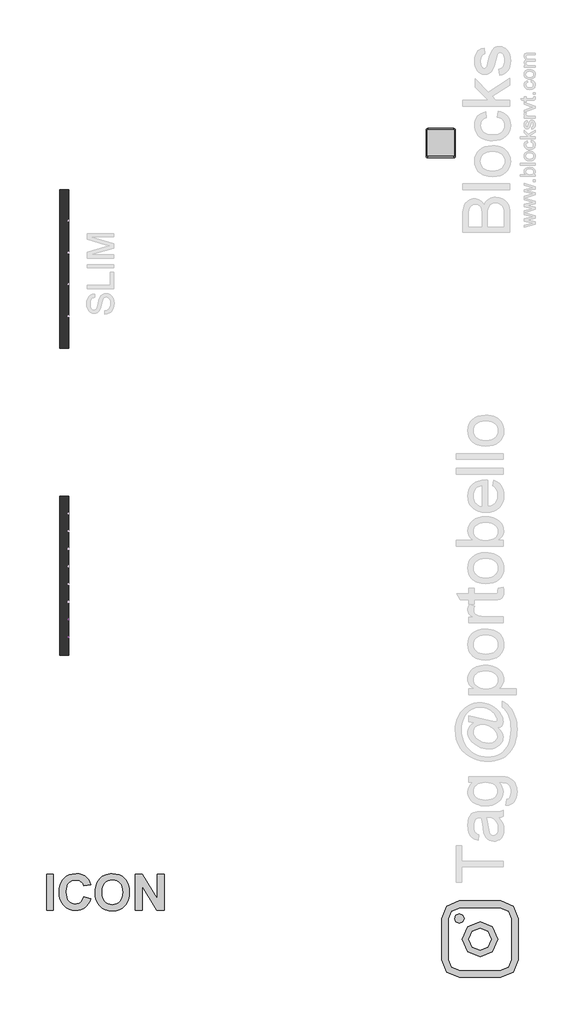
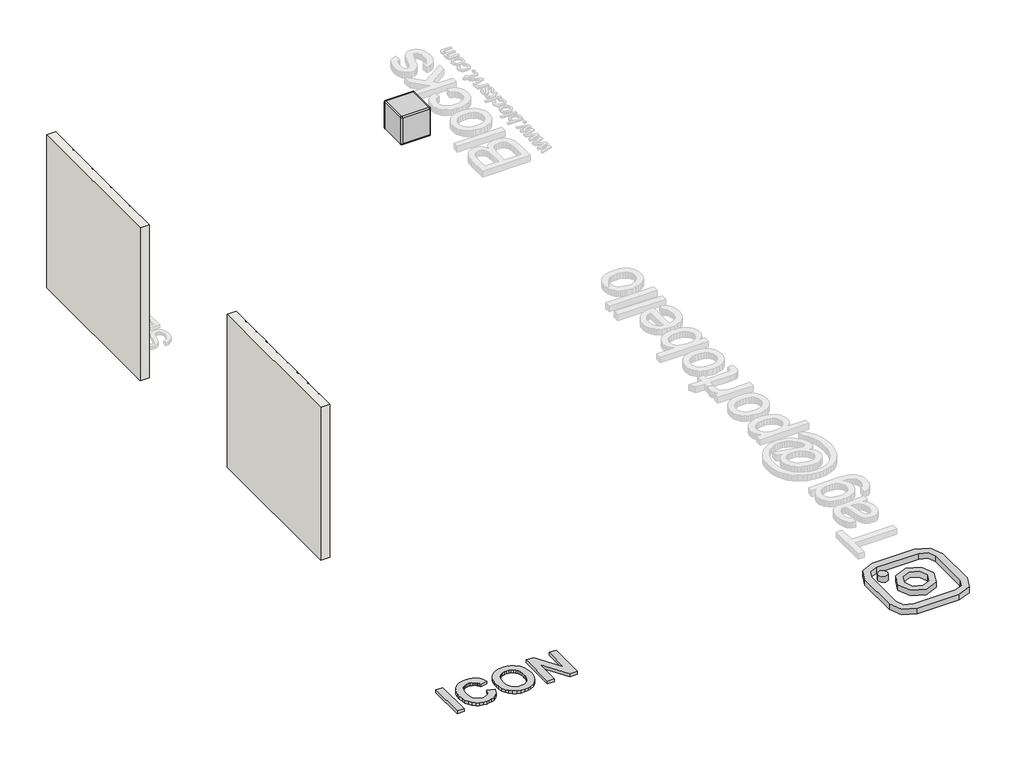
# One storey, part 1 of 4: 8 proxies, 2 walls, 1 furniture element.
"""IFC4 building model written with IfcOpenShell, lengths in millimetres."""

import ifcopenshell
import ifcopenshell.guid

model = None  # the IFC model being written
_history = None  # IfcOwnerHistory: only IFC2X3 demands one
_inside = {}  # id of a spatial element -> (the spatial element, [elements in it])
_under = {}  # id of a project, library or spatial element -> (it, [spatial elements below it])
_declared = {}  # id of a project -> (the project, [libraries it declares])
_typed = {}  # id of a type object -> (the type object, [elements of that type])
_made_of = {}  # id of a material, layer set ... -> (it, [elements and type objects made of it])


def new_model(schema):
    """Start an empty IFC model of exactly this schema.

    Asked for "IFC4X3", IfcOpenShell would pick the latest addendum, in which some entities
    have other attributes; the version numbers below select the first issue.
    IFC2X3 requires an IfcOwnerHistory on every rooted entity: one is made here for all.
    """
    global model, _history
    if schema == "IFC4X3":
        model = ifcopenshell.file(schema_version=(4, 3, 0, 0))
    else:
        model = ifcopenshell.file(schema=schema)
    _inside.clear()
    _under.clear()
    _declared.clear()
    _typed.clear()
    _made_of.clear()
    _history = None
    if model.schema == "IFC2X3":
        org = make("IfcOrganization", Name="unknown")
        user = make(
            "IfcPersonAndOrganization",
            ThePerson=make("IfcPerson", FamilyName="unknown"),
            TheOrganization=org,
        )
        app = make(
            "IfcApplication",
            ApplicationDeveloper=org,
            Version="unknown",
            ApplicationFullName="unknown",
            ApplicationIdentifier="unknown",
        )
        _history = make(
            "IfcOwnerHistory",
            OwningUser=user,
            OwningApplication=app,
            ChangeAction="ADDED",
            CreationDate=0,
        )
    return model


def make(cls, **values):
    """One entity of the class cls with the attributes given. An attribute that is None is left unset."""
    return model.create_entity(
        cls, **{name: value for name, value in values.items() if value is not None}
    )


def rooted(cls, **values):
    """An entity with a GlobalId (a new one), such as an element, a storey or a relation."""
    return make(cls, GlobalId=ifcopenshell.guid.new(), OwnerHistory=_history, **values)


def si_unit(unit_type, name, prefix=None):
    """IfcSIUnit, for example si_unit("LENGTHUNIT", "METRE", prefix="MILLI")."""
    return make("IfcSIUnit", UnitType=unit_type, Prefix=prefix, Name=name)


def assignment(units):
    """IfcUnitAssignment: the units of a project."""
    return None if units is None else make("IfcUnitAssignment", Units=units)


def point(xyz):
    """IfcCartesianPoint."""
    return None if xyz is None else make("IfcCartesianPoint", Coordinates=xyz)


def direction(xyz):
    """IfcDirection."""
    return None if xyz is None else make("IfcDirection", DirectionRatios=xyz)


def frame(location, z_axis=None, x_axis=None):
    """IfcAxis2Placement3D, a coordinate frame: its origin and axes. An axis left out is left unset."""
    return make(
        "IfcAxis2Placement3D",
        Location=point(location),
        Axis=direction(z_axis),
        RefDirection=direction(x_axis),
    )


def frame_2d(location, x_axis=None):
    """IfcAxis2Placement2D, a coordinate frame in the plane: its origin and x axis."""
    return make(
        "IfcAxis2Placement2D", Location=point(location), RefDirection=direction(x_axis)
    )


def origin():
    """The frame at (0, 0, 0) with its axes left unset."""
    return frame((0.0, 0.0, 0.0))


def origin_with_axes():
    """The frame at (0, 0, 0) with the z axis (0, 0, 1) and the x axis (1, 0, 0) written out."""
    return frame((0.0, 0.0, 0.0), z_axis=(0.0, 0.0, 1.0), x_axis=(1.0, 0.0, 0.0))


def origin_2d():
    """The frame at (0, 0) in the plane with its x axis left unset."""
    return frame_2d((0.0, 0.0))


def place(relative_to, where):
    """IfcLocalPlacement: puts the frame where relative to a parent placement (None: the world)."""
    return make(
        "IfcLocalPlacement", PlacementRelTo=relative_to, RelativePlacement=where
    )


def context(
    kind, dimensions, precision=None, world=None, true_north=None, identifier=None
):
    """IfcGeometricRepresentationContext, for example the 3D "Model" context."""
    return make(
        "IfcGeometricRepresentationContext",
        ContextIdentifier=identifier,
        ContextType=kind,
        CoordinateSpaceDimension=dimensions,
        Precision=precision,
        WorldCoordinateSystem=world,
        TrueNorth=true_north,
    )


def project(units=None, contexts=None):
    """IfcProject with its units and contexts."""
    return rooted(
        "IfcProject",
        Name="project",
        RepresentationContexts=contexts,
        UnitsInContext=assignment(units),
    )


def spatial(cls, under=None, at=None, **own):
    """A site, building, storey or space (cls), placed at a placement, below another one or the project."""
    s = rooted(cls, ObjectPlacement=at, **own)
    if under is not None:
        _under.setdefault(under.id(), (under, []))[1].append(s)
    return s


def polyline(points):
    """IfcPolyline through the points."""
    return make("IfcPolyline", Points=[point(p) for p in points])


def circle_curve(where, radius):
    """IfcCircle in the frame where."""
    return make("IfcCircle", Position=where, Radius=radius)


def ellipse_curve(where, semi_axis1, semi_axis2):
    """IfcEllipse in the frame where."""
    return make(
        "IfcEllipse", Position=where, SemiAxis1=semi_axis1, SemiAxis2=semi_axis2
    )


def trimmed(basis, trim1, trim2, sense, master):
    """IfcTrimmedCurve: the piece of a basis curve between two trims."""
    return make(
        "IfcTrimmedCurve",
        BasisCurve=basis,
        Trim1=trim1,
        Trim2=trim2,
        SenseAgreement=sense,
        MasterRepresentation=master,
    )


def segment(curve, same_sense, transition):
    """IfcCompositeCurveSegment."""
    return make(
        "IfcCompositeCurveSegment",
        Transition=transition,
        SameSense=same_sense,
        ParentCurve=curve,
    )


def composite_curve(segments, self_intersect=None):
    """IfcCompositeCurve: segments joined end to end."""
    return make("IfcCompositeCurve", Segments=segments, SelfIntersect=self_intersect)


def outline(outer, holes=None, kind="AREA"):
    """IfcArbitraryClosedProfileDef: a profile drawn as a closed curve; with holes, ...WithVoids."""
    if holes is None:
        return make("IfcArbitraryClosedProfileDef", ProfileType=kind, OuterCurve=outer)
    return make(
        "IfcArbitraryProfileDefWithVoids",
        ProfileType=kind,
        OuterCurve=outer,
        InnerCurves=holes,
    )


def extrude(swept, where, along, depth):
    """IfcExtrudedAreaSolid: the profile swept, set in the frame where, extruded along a direction by depth."""
    return make(
        "IfcExtrudedAreaSolid",
        SweptArea=swept,
        Position=where,
        ExtrudedDirection=direction(along),
        Depth=depth,
    )


def shape(context_of_items, identifier, shape_type, items):
    """IfcShapeRepresentation: the items that make up one representation, for example the "Body"."""
    return make(
        "IfcShapeRepresentation",
        ContextOfItems=context_of_items,
        RepresentationIdentifier=identifier,
        RepresentationType=shape_type,
        Items=items,
    )


def source(mapping_origin, context_of_items, identifier, shape_type, items):
    """IfcRepresentationMap: a shape defined once, which mapped items show again and again."""
    return make(
        "IfcRepresentationMap",
        MappingOrigin=mapping_origin,
        MappedRepresentation=shape(context_of_items, identifier, shape_type, items),
    )


def transform(
    local_origin,
    x_axis=None,
    y_axis=None,
    z_axis=None,
    scale=None,
    scale2=None,
    scale3=None,
    uniform=True,
):
    """IfcCartesianTransformationOperator3D, or its non-uniform kind. x_axis, y_axis, z_axis: its Axis1, 2, 3."""
    if uniform:
        return make(
            "IfcCartesianTransformationOperator3D",
            Axis1=direction(x_axis),
            Axis2=direction(y_axis),
            LocalOrigin=point(local_origin),
            Scale=scale,
            Axis3=direction(z_axis),
        )
    return make(
        "IfcCartesianTransformationOperator3DnonUniform",
        Axis1=direction(x_axis),
        Axis2=direction(y_axis),
        LocalOrigin=point(local_origin),
        Scale=scale,
        Axis3=direction(z_axis),
        Scale2=scale2,
        Scale3=scale3,
    )


def mapped(mapping_source, mapping_target):
    """IfcMappedItem: shows the shape of a source again, moved by a transform."""
    return make(
        "IfcMappedItem", MappingSource=mapping_source, MappingTarget=mapping_target
    )


def made_of(thing, what):
    """Note that an element or type object is made of a material, layer set ...; save() writes the relation."""
    if what is not None:
        _made_of.setdefault(what.id(), (what, []))[1].append(thing)
    return thing


def element(
    cls,
    number,
    at=None,
    inside=None,
    cuts=None,
    type_object=None,
    material=None,
    context=None,
    identifier="Body",
    shape_type=None,
    held_by="IfcProductDefinitionShape",
    body=None,
    shapes=None,
    **own,
):
    """One element of the class cls, such as IfcWall. Its Tag is "e" and its number.

    at: its placement. inside: the storey or other place that contains it. cuts: it is an
    opening in that element (IfcRelVoidsElement). A single representation is given by context,
    identifier, shape_type and body (its items); several are given by shapes. held_by: the class
    of the entity that holds the representations. save() writes the other relations.
    """
    e = rooted(cls, Tag="e%d" % number, ObjectPlacement=at, **own)
    if body is not None:
        shapes = [shape(context, identifier, shape_type, body)]
    if shapes is not None:
        e.Representation = make(held_by, Representations=shapes)
    if inside is not None:
        _inside.setdefault(inside.id(), (inside, []))[1].append(e)
    if cuts is not None:
        rooted(
            "IfcRelVoidsElement", RelatingBuildingElement=cuts, RelatedOpeningElement=e
        )
    if type_object is not None:
        _typed.setdefault(type_object.id(), (type_object, []))[1].append(e)
    return made_of(e, material)


def aggregate(whole, parts):
    """IfcRelAggregates: a whole, such as a stair, and the parts it consists of."""
    return rooted("IfcRelAggregates", RelatingObject=whole, RelatedObjects=parts)


def save(model, path):
    """Write the relations noted so far, then the file.

    IfcRelAggregates (storeys below a building ...), IfcRelContainedInSpatialStructure (elements
    in a storey), IfcRelDefinesByType, IfcRelAssociatesMaterial and IfcRelDeclares: one each for
    every whole, place, type object, material and project.
    """
    for whole, parts in _under.values():
        aggregate(whole, parts)
    for where, things in _inside.values():
        rooted(
            "IfcRelContainedInSpatialStructure",
            RelatedElements=things,
            RelatingStructure=where,
        )
    for kind, things in _typed.values():
        rooted("IfcRelDefinesByType", RelatedObjects=things, RelatingType=kind)
    for what, things in _made_of.values():
        rooted("IfcRelAssociatesMaterial", RelatedObjects=things, RelatingMaterial=what)
    for by, libraries in _declared.values():
        rooted("IfcRelDeclares", RelatingContext=by, RelatedDefinitions=libraries)
    model.write(path)


def plane_surface(at):
    """IfcPlane: the flat surface through the origin of the frame at, square to its z axis."""
    return make("IfcPlane", Position=at)


def cylinder_surface(at, radius):
    """IfcCylindricalSurface: all points at the distance radius from the z axis of the frame at."""
    return make("IfcCylindricalSurface", Position=at, Radius=radius)


def revolved_surface(curve, axis_point, axis_direction):
    """IfcSurfaceOfRevolution: the curve turned about the line through axis_point along axis_direction."""
    return make(
        "IfcSurfaceOfRevolution",
        SweptCurve=make("IfcArbitraryOpenProfileDef", ProfileType="CURVE", Curve=curve),
        AxisPosition=make("IfcAxis1Placement", Location=point(axis_point), Axis=direction(axis_direction)),
    )


def advanced_brep(points, edges, surfaces, faces):
    """IfcAdvancedBrep: a solid bounded by faces that lie on surfaces and meet in shared edges.

    An edge is (start, end): straight between two places in points (the first is 0);
    or (start, end, curve); or (start, end, curve, False) where it runs against its curve.
    A face is (place in surfaces, loops), or (place, loops, False) where it looks against
    its surface's normal. A loop lists edges by number (the first is 1), with a minus sign
    where the edge is run from its end to its start. The first loop is the outer one.
    """
    corners = [point(p) for p in points]
    vertices = [make("IfcVertexPoint", VertexGeometry=c) for c in corners]
    made = []
    for start, end, *more in edges:
        made.append(
            make(
                "IfcEdgeCurve",
                EdgeStart=vertices[start],
                EdgeEnd=vertices[end],
                EdgeGeometry=more[0] if more else make("IfcPolyline", Points=[corners[start], corners[end]]),
                SameSense=more[1] if len(more) > 1 else True,
            )
        )
    hull = []
    for where, loops, *sense in faces:
        bounds = []
        for j, loop in enumerate(loops):
            ring = [make("IfcOrientedEdge", EdgeElement=made[abs(k) - 1], Orientation=k > 0) for k in loop]
            bounds.append(
                make(
                    "IfcFaceOuterBound" if j == 0 else "IfcFaceBound",
                    Bound=make("IfcEdgeLoop", EdgeList=ring),
                    Orientation=True,
                )
            )
        hull.append(make("IfcAdvancedFace", Bounds=bounds, FaceSurface=surfaces[where], SameSense=sense[0] if sense else True))
    return make("IfcAdvancedBrep", Outer=make("IfcClosedShell", CfsFaces=hull))


def generic_models_d67f6705(model_context):
    return source(origin(), model_context, "Body", "SweptSolid", [
        extrude(outline(composite_curve([segment(polyline([(650.0, 350.0), (650.0, -350.0)]), True, "CONTINUOUS"), segment(trimmed(circle_curve(frame_2d((350.0, -350.0)), 300.0), [point((650.0, -350.0))], [point((350.0, -650.0))], False, "CARTESIAN"), True, "CONTINUOUS"), segment(polyline([(350.0, -650.0), (-350.0, -650.0)]), True, "CONTINUOUS"), segment(trimmed(circle_curve(frame_2d((-350.0, -350.0)), 300.0), [point((-350.0, -650.0))], [point((-650.0, -350.0))], False, "CARTESIAN"), True, "CONTINUOUS"), segment(polyline([(-650.0, -350.0), (-650.0, 350.0)]), True, "CONTINUOUS"), segment(trimmed(circle_curve(frame_2d((-350.0, 350.0)), 300.0), [point((-650.0, 350.0))], [point((-350.0, 650.0))], False, "CARTESIAN"), True, "CONTINUOUS"), segment(polyline([(-350.0, 650.0), (350.0, 650.0)]), True, "CONTINUOUS"), segment(trimmed(circle_curve(frame_2d((350.0, 350.0)), 300.0), [point((350.0, 650.0))], [point((650.0, 350.0))], False, "CARTESIAN"), True, "CONTINUOUS")], self_intersect=False), holes=[composite_curve([segment(trimmed(circle_curve(frame_2d((-350.0, -350.0)), 180.0), [point((-530.0, -350.0))], [point((-350.0, -530.0))], True, "CARTESIAN"), True, "CONTINUOUS"), segment(polyline([(-350.0, -530.0), (350.0, -530.0)]), True, "CONTINUOUS"), segment(trimmed(circle_curve(frame_2d((350.0, -350.0)), 180.0), [point((350.0, -530.0))], [point((530.0, -350.0))], True, "CARTESIAN"), True, "CONTINUOUS"), segment(polyline([(530.0, -350.0), (530.0, 350.0)]), True, "CONTINUOUS"), segment(trimmed(circle_curve(frame_2d((350.0, 350.0)), 180.0), [point((530.0, 350.0))], [point((350.0, 530.0))], True, "CARTESIAN"), True, "CONTINUOUS"), segment(polyline([(350.0, 530.0), (-350.0, 530.0)]), True, "CONTINUOUS"), segment(trimmed(circle_curve(frame_2d((-350.0, 350.0)), 180.0), [point((-350.0, 530.0))], [point((-530.0, 350.0))], True, "CARTESIAN"), True, "CONTINUOUS"), segment(polyline([(-530.0, 350.0), (-530.0, -350.0)]), True, "CONTINUOUS")], self_intersect=False)]), origin_with_axes(), (0.0, 0.0, 1.0), 100.0),
        extrude(outline(composite_curve([segment(trimmed(circle_curve(origin_2d(), 300.0), [point((-300.0, 0.0))], [point((300.0, 0.0))], False, "CARTESIAN"), True, "CONTINUOUS"), segment(trimmed(circle_curve(origin_2d(), 300.0), [point((300.0, 0.0))], [point((-300.0, 0.0))], False, "CARTESIAN"), True, "CONTINUOUS")], self_intersect=False), holes=[composite_curve([segment(trimmed(circle_curve(origin_2d(), 190.0), [point((-190.0, 0.0))], [point((190.0, 0.0))], True, "CARTESIAN"), True, "CONTINUOUS"), segment(trimmed(circle_curve(origin_2d(), 190.0), [point((190.0, 0.0))], [point((-190.0, 0.0))], True, "CARTESIAN"), True, "CONTINUOUS")], self_intersect=False)]), origin_with_axes(), (0.0, 0.0, 1.0), 100.0),
        extrude(outline(composite_curve([segment(trimmed(circle_curve(frame_2d((351.5200499, -350.3863581)), 80.0), [point((271.5200499, -350.3863581))], [point((431.5200499, -350.3863581))], False, "CARTESIAN"), True, "CONTINUOUS"), segment(trimmed(circle_curve(frame_2d((351.5200499, -350.3863581)), 80.0), [point((431.5200499, -350.3863581))], [point((271.5200499, -350.3863581))], False, "CARTESIAN"), True, "CONTINUOUS")], self_intersect=False)), origin_with_axes(), (0.0, 0.0, 1.0), 100.0),
    ])


def black_7f78d727(model_context):
    return source(origin(), model_context, "Body", "SweptSolid", [
        extrude(outline(polyline([(1.0, -5.0), (-9.0, -5.0), (-9.0, -2.7289948), (-7.7920635, -2.7289948), (-6.5210583, -4.0), (0.0, -4.0), (0.0, 4.0), (-9.0, 4.0), (-9.0, 23.9106111), (-8.0, 23.9106111), (-8.0, 5.0), (1.0, 5.0), (1.0, -5.0)])), frame((0.0, -600.0, 0.0), z_axis=(0.0, 1.0, 0.0), x_axis=(0.0, 0.0, 1.0)), (0.0, 0.0, 1.0), 1200.0),
    ])


def black_fe5eff52(model_context):
    return source(origin(), model_context, "Body", "SweptSolid", [
        extrude(outline(polyline([(1.0, -5.0), (-9.0, -5.0), (-9.0, -2.7289948), (-7.7920635, -2.7289948), (-6.5210583, -4.0), (0.0, -4.0), (0.0, 4.0), (-9.0, 4.0), (-9.0, 23.9106111), (-8.0, 23.9106111), (-8.0, 5.0), (1.0, 5.0), (1.0, -5.0)])), frame((0.0, -600.0, 0.0), z_axis=(0.0, 1.0, 0.0), x_axis=(0.0, 0.0, 1.0)), (0.0, 0.0, 1.0), 300.0),
    ])


def branco_22256ad2(model_context):
    return source(origin(), model_context, "Body", "AdvancedBrep", [
        advanced_brep(
        [(-225.0, 226.0, 500.0), (-226.0, 225.0, 500.0), (-226.0, -225.0, 500.0), (-225.0, -226.0, 500.0), (225.0, -226.0, 500.0), (226.0, -225.0, 500.0), (226.0, 225.0, 500.0), (225.0, 226.0, 500.0), (-226.0, 225.0, 0.0), (-225.0, 226.0, 0.0), (225.0, 226.0, 0.0), (226.0, 225.0, 0.0), (226.0, -225.0, 0.0), (225.0, -226.0, 0.0), (-225.0, -226.0, 0.0), (-226.0, -225.0, 0.0), (-225.0, -250.0, 476.0), (-225.0, -250.0, 24.0), (225.0, -250.0, 24.0), (225.0, -250.0, 476.0), (250.0, -225.0, 476.0), (250.0, -225.0, 24.0), (250.0, 225.0, 24.0), (250.0, 225.0, 476.0), (225.0, 250.0, 476.0), (225.0, 250.0, 24.0), (-225.0, 250.0, 24.0), (-225.0, 250.0, 476.0), (-250.0, 225.0, 476.0), (-250.0, 225.0, 24.0), (-250.0, -225.0, 24.0), (-250.0, -225.0, 476.0)],
        [
            (0, 1, circle_curve(frame((-225.0, 225.0, 500.0), z_axis=(0.0, 0.0, 1.0), x_axis=(0.0, 1.0, 0.0)), 1.0)),
            (1, 2),
            (2, 3, circle_curve(frame((-225.0, -225.0, 500.0), z_axis=(0.0, 0.0, 1.0), x_axis=(-1.0, 0.0, 0.0)), 1.0)),
            (3, 4),
            (4, 5, circle_curve(frame((225.0, -225.0, 500.0), z_axis=(0.0, 0.0, 1.0), x_axis=(0.0, -1.0, 0.0)), 1.0)),
            (5, 6),
            (6, 7, circle_curve(frame((225.0, 225.0, 500.0), z_axis=(0.0, 0.0, 1.0), x_axis=(1.0, 0.0, 0.0)), 1.0)),
            (7, 0),
            (8, 9, circle_curve(frame((-225.0, 225.0, 0.0), z_axis=(0.0, 0.0, -1.0), x_axis=(0.0, 1.0, 0.0)), 1.0)),
            (9, 10),
            (10, 11, circle_curve(frame((225.0, 225.0, 0.0), z_axis=(0.0, 0.0, -1.0), x_axis=(1.0, 0.0, 0.0)), 1.0)),
            (11, 12),
            (12, 13, circle_curve(frame((225.0, -225.0, 0.0), z_axis=(0.0, 0.0, -1.0), x_axis=(0.0, -1.0, 0.0)), 1.0)),
            (13, 14),
            (14, 15, circle_curve(frame((-225.0, -225.0, 0.0), z_axis=(0.0, 0.0, -1.0), x_axis=(-1.0, 0.0, 0.0)), 1.0)),
            (15, 8),
            (16, 17),
            (17, 18),
            (18, 19),
            (19, 16),
            (20, 21),
            (21, 22),
            (22, 23),
            (23, 20),
            (24, 25),
            (25, 26),
            (26, 27),
            (27, 24),
            (28, 29),
            (29, 30),
            (30, 31),
            (31, 28),
            (16, 31, circle_curve(frame((-225.0, -225.0, 476.0), z_axis=(0.0, 0.0, -1.0), x_axis=(1.0, 0.0, 0.0)), 25.0)),
            (30, 17, circle_curve(frame((-225.0, -225.0, 24.0), z_axis=(0.0, 0.0, 1.0), x_axis=(1.0, 0.0, 0.0)), 25.0)),
            (20, 19, circle_curve(frame((225.0, -225.0, 476.0), z_axis=(0.0, 0.0, -1.0), x_axis=(1.0, 0.0, 0.0)), 25.0)),
            (18, 21, circle_curve(frame((225.0, -225.0, 24.0), z_axis=(0.0, 0.0, 1.0), x_axis=(1.0, 0.0, 0.0)), 25.0)),
            (24, 23, circle_curve(frame((225.0, 225.0, 476.0), z_axis=(0.0, 0.0, -1.0), x_axis=(1.0, 0.0, 0.0)), 25.0)),
            (22, 25, circle_curve(frame((225.0, 225.0, 24.0), z_axis=(0.0, 0.0, 1.0), x_axis=(1.0, 0.0, 0.0)), 25.0)),
            (28, 27, circle_curve(frame((-225.0, 225.0, 476.0), z_axis=(0.0, 0.0, -1.0), x_axis=(1.0, 0.0, 0.0)), 25.0)),
            (26, 29, circle_curve(frame((-225.0, 225.0, 24.0), z_axis=(0.0, 0.0, 1.0), x_axis=(1.0, 0.0, 0.0)), 25.0)),
            (28, 1, circle_curve(frame((-226.0, 225.0, 476.0), z_axis=(0.0, 1.0, 0.0), x_axis=(1.0, 0.0, 0.0)), 24.0)),
            (0, 27, circle_curve(frame((-225.0, 226.0, 476.0), z_axis=(-1.0, 0.0, 0.0), x_axis=(0.0, -1.0, 0.0)), 24.0)),
            (8, 29, circle_curve(frame((-226.0, 225.0, 24.0), z_axis=(0.0, 1.0, 0.0), x_axis=(1.0, 0.0, 0.0)), 24.0)),
            (26, 9, circle_curve(frame((-225.0, 226.0, 24.0), z_axis=(-1.0, 0.0, 0.0), x_axis=(0.0, -1.0, 0.0)), 24.0)),
            (31, 2, circle_curve(frame((-226.0, -225.0, 476.0), z_axis=(0.0, 1.0, 0.0), x_axis=(1.0, 0.0, 0.0)), 24.0)),
            (15, 30, circle_curve(frame((-226.0, -225.0, 24.0), z_axis=(0.0, 1.0, 0.0), x_axis=(1.0, 0.0, 0.0)), 24.0)),
            (16, 3, circle_curve(frame((-225.0, -226.0, 476.0), z_axis=(-1.0, 0.0, 0.0), x_axis=(0.0, 1.0, 0.0)), 24.0)),
            (14, 17, circle_curve(frame((-225.0, -226.0, 24.0), z_axis=(-1.0, 0.0, 0.0), x_axis=(0.0, 1.0, 0.0)), 24.0)),
            (19, 4, circle_curve(frame((225.0, -226.0, 476.0), z_axis=(-1.0, 0.0, 0.0), x_axis=(0.0, 1.0, 0.0)), 24.0)),
            (13, 18, circle_curve(frame((225.0, -226.0, 24.0), z_axis=(-1.0, 0.0, 0.0), x_axis=(0.0, 1.0, 0.0)), 24.0)),
            (20, 5, circle_curve(frame((226.0, -225.0, 476.0), z_axis=(0.0, -1.0, 0.0), x_axis=(-1.0, 0.0, 0.0)), 24.0)),
            (12, 21, circle_curve(frame((226.0, -225.0, 24.0), z_axis=(0.0, -1.0, 0.0), x_axis=(-1.0, 0.0, 0.0)), 24.0)),
            (23, 6, circle_curve(frame((226.0, 225.0, 476.0), z_axis=(0.0, -1.0, 0.0), x_axis=(-1.0, 0.0, 0.0)), 24.0)),
            (11, 22, circle_curve(frame((226.0, 225.0, 24.0), z_axis=(0.0, -1.0, 0.0), x_axis=(-1.0, 0.0, 0.0)), 24.0)),
            (24, 7, circle_curve(frame((225.0, 226.0, 476.0), z_axis=(1.0, 0.0, 0.0), x_axis=(0.0, -1.0, 0.0)), 24.0)),
            (10, 25, circle_curve(frame((225.0, 226.0, 24.0), z_axis=(1.0, 0.0, 0.0), x_axis=(0.0, -1.0, 0.0)), 24.0)),
        ],
        [
            plane_surface(frame((-200.0, -225.0, 500.0), z_axis=(0.0, 0.0, 1.0), x_axis=(0.0, 1.0, 0.0))),
            plane_surface(frame((-200.0, -225.0, 0.0), z_axis=(0.0, 0.0, -1.0), x_axis=(0.0, -1.0, 0.0))),
            plane_surface(frame((-225.0, -250.0, 500.0), z_axis=(0.0, -1.0, 0.0), x_axis=(0.0, 0.0, -1.0))),
            plane_surface(frame((250.0, -225.0, 500.0), z_axis=(1.0, 0.0, 0.0), x_axis=(0.0, 0.0, -1.0))),
            plane_surface(frame((225.0, 250.0, 500.0), z_axis=(0.0, 1.0, 0.0), x_axis=(0.0, 0.0, -1.0))),
            plane_surface(frame((-250.0, 225.0, 500.0), z_axis=(-1.0, 0.0, 0.0), x_axis=(0.0, 0.0, -1.0))),
            cylinder_surface(frame((-225.0, -225.0, 0.0), z_axis=(0.0, 0.0, 1.0), x_axis=(1.0, 0.0, 0.0)), 25.0),
            cylinder_surface(frame((225.0, -225.0, 0.0), z_axis=(0.0, 0.0, 1.0), x_axis=(1.0, 0.0, 0.0)), 25.0),
            cylinder_surface(frame((225.0, 225.0, 0.0), z_axis=(0.0, 0.0, 1.0), x_axis=(1.0, 0.0, 0.0)), 25.0),
            cylinder_surface(frame((-225.0, 225.0, 0.0), z_axis=(0.0, 0.0, 1.0), x_axis=(1.0, 0.0, 0.0)), 25.0),
            revolved_surface(trimmed(ellipse_curve(frame((-225.0, 226.0, 476.0), z_axis=(1.0, 0.0, 0.0), x_axis=(0.0, -1.0, 0.0)), 24.0, 24.0), [point((-225.0, 250.0, 476.0))], [point((-225.0, 226.0, 500.0))], True, "CARTESIAN"), (-225.0, 225.0, 500.0), (0.0, 0.0, 1.0)),
            revolved_surface(trimmed(ellipse_curve(frame((-225.0, 226.0, 24.0), z_axis=(1.0, 0.0, 0.0), x_axis=(0.0, -1.0, 0.0)), 24.0, 24.0), [point((-225.0, 226.0, 0.0))], [point((-225.0, 250.0, 24.0))], True, "CARTESIAN"), (-225.0, 225.0, 500.0), (0.0, 0.0, 1.0)),
            cylinder_surface(frame((-226.0, 225.0, 476.0), z_axis=(0.0, -1.0, 0.0), x_axis=(1.0, 0.0, 0.0)), 24.0),
            cylinder_surface(frame((-226.0, 225.0, 24.0), z_axis=(0.0, -1.0, 0.0), x_axis=(1.0, 0.0, 0.0)), 24.0),
            revolved_surface(trimmed(ellipse_curve(frame((-226.0, -225.0, 476.0), z_axis=(0.0, 1.0, 0.0), x_axis=(1.0, 0.0, 0.0)), 24.0, 24.0), [point((-250.0, -225.0, 476.0))], [point((-226.0, -225.0, 500.0))], True, "CARTESIAN"), (-225.0, -225.0, 500.0), (0.0, 0.0, 1.0)),
            revolved_surface(trimmed(ellipse_curve(frame((-226.0, -225.0, 24.0), z_axis=(0.0, 1.0, 0.0), x_axis=(1.0, 0.0, 0.0)), 24.0, 24.0), [point((-226.0, -225.0, 0.0))], [point((-250.0, -225.0, 24.0))], True, "CARTESIAN"), (-225.0, -225.0, 500.0), (0.0, 0.0, 1.0)),
            cylinder_surface(frame((-225.0, -226.0, 476.0), z_axis=(1.0, 0.0, 0.0), x_axis=(0.0, 1.0, 0.0)), 24.0),
            cylinder_surface(frame((-225.0, -226.0, 24.0), z_axis=(1.0, 0.0, 0.0), x_axis=(0.0, 1.0, 0.0)), 24.0),
            revolved_surface(trimmed(ellipse_curve(frame((225.0, -226.0, 476.0), z_axis=(-1.0, 0.0, 0.0), x_axis=(0.0, 1.0, 0.0)), 24.0, 24.0), [point((225.0, -250.0, 476.0))], [point((225.0, -226.0, 500.0))], True, "CARTESIAN"), (225.0, -225.0, 500.0), (0.0, 0.0, 1.0)),
            revolved_surface(trimmed(ellipse_curve(frame((225.0, -226.0, 24.0), z_axis=(-1.0, 0.0, 0.0), x_axis=(0.0, 1.0, 0.0)), 24.0, 24.0), [point((225.0, -226.0, 0.0))], [point((225.0, -250.0, 24.0))], True, "CARTESIAN"), (225.0, -225.0, 500.0), (0.0, 0.0, 1.0)),
            cylinder_surface(frame((226.0, -225.0, 476.0), z_axis=(0.0, 1.0, 0.0), x_axis=(-1.0, 0.0, 0.0)), 24.0),
            cylinder_surface(frame((226.0, -225.0, 24.0), z_axis=(0.0, 1.0, 0.0), x_axis=(-1.0, 0.0, 0.0)), 24.0),
            revolved_surface(trimmed(ellipse_curve(frame((226.0, 225.0, 476.0), z_axis=(0.0, -1.0, 0.0), x_axis=(-1.0, 0.0, 0.0)), 24.0, 24.0), [point((250.0, 225.0, 476.0))], [point((226.0, 225.0, 500.0))], True, "CARTESIAN"), (225.0, 225.0, 500.0), (0.0, 0.0, 1.0)),
            revolved_surface(trimmed(ellipse_curve(frame((226.0, 225.0, 24.0), z_axis=(0.0, -1.0, 0.0), x_axis=(-1.0, 0.0, 0.0)), 24.0, 24.0), [point((226.0, 225.0, 0.0))], [point((250.0, 225.0, 24.0))], True, "CARTESIAN"), (225.0, 225.0, 500.0), (0.0, 0.0, 1.0)),
            cylinder_surface(frame((225.0, 226.0, 476.0), z_axis=(-1.0, 0.0, 0.0), x_axis=(0.0, -1.0, 0.0)), 24.0),
            cylinder_surface(frame((225.0, 226.0, 24.0), z_axis=(-1.0, 0.0, 0.0), x_axis=(0.0, -1.0, 0.0)), 24.0),
        ],
        [
            (0, [[1, 2, 3, 4, 5, 6, 7, 8]]),
            (1, [[9, 10, 11, 12, 13, 14, 15, 16]]),
            (2, [[17, 18, 19, 20]]),
            (3, [[21, 22, 23, 24]]),
            (4, [[25, 26, 27, 28]]),
            (5, [[29, 30, 31, 32]]),
            (6, [[-17, 33, -31, 34]]),
            (7, [[-21, 35, -19, 36]]),
            (8, [[-25, 37, -23, 38]]),
            (9, [[-29, 39, -27, 40]]),
            (10, [[41, -1, 42, -39]]),
            (11, [[43, -40, 44, -9]]),
            (12, [[-41, -32, 45, -2]]),
            (13, [[-43, -16, 46, -30]]),
            (14, [[-45, -33, 47, -3]]),
            (15, [[-46, -15, 48, -34]]),
            (16, [[-47, -20, 49, -4]]),
            (17, [[-48, -14, 50, -18]]),
            (18, [[-49, -35, 51, -5]]),
            (19, [[-50, -13, 52, -36]]),
            (20, [[-51, -24, 53, -6]]),
            (21, [[-52, -12, 54, -22]]),
            (22, [[-53, -37, 55, -7]]),
            (23, [[-54, -11, 56, -38]]),
            (24, [[-42, -8, -55, -28]]),
            (25, [[-44, -26, -56, -10]]),
        ],
    ),
    ])


model = new_model("IFC4")

# Units and contexts
model_context = context("Model", 3, world=origin())
ifc_project = project(units=[si_unit("LENGTHUNIT", "METRE", prefix="MILLI")], contexts=[model_context])

# Site, building, storey
site = spatial("IfcSite", under=ifc_project)
building = spatial("IfcBuilding", under=site)
storey = spatial("IfcBuildingStorey", under=building, Name="PORTOBELLO - SHOWROOM", Elevation=0.0)

# Proxies
placement = place(None, origin())
generic_models_shape = generic_models_d67f6705(model_context)
element("IfcBuildingElementProxy", 1, Name="Blks_Instagram1 : Único 2", ObjectType="Blks_Instagram1 : Único 2", at=placement, inside=storey, context=model_context, shape_type="MappedRepresentation", body=[
    mapped(generic_models_shape, transform((62216.922627, 14398.0190046, 0.0), x_axis=(-1.0, 0.0, 0.0), y_axis=(0.0, -1.0, 0.0), z_axis=(0.0, 0.0, 1.0))),
])
element("IfcBuildingElementProxy", 2, Name="600mm Arial", ObjectType="600mm Arial", at=placement, inside=storey, context=model_context, shape_type="SweptSolid", body=[
    extrude(outline(polyline([(54850.1547731, 14889.1827656), (54850.1547731, 15501.3384056), (54966.7558474, 15501.3384056), (54966.7558474, 14889.1827656), (54850.1547731, 14889.1827656)])), origin_with_axes(), (0.0, 0.0, 1.0), 50.0),
    extrude(outline(polyline([(55481.7439254, 15122.3849142), (55598.3449997, 15083.5178894), (55582.2421333, 15037.4154871), (55561.5655593, 14997.642261), (55536.3152778, 14964.198211), (55506.4912889, 14937.0833371), (55472.2169496, 14916.1268371), (55433.6156174, 14901.1579085), (55390.6872922, 14892.1765513), (55343.431974, 14889.1827656), (55285.0460357, 14894.2973472), (55232.1067947, 14909.6410921), (55184.614251, 14935.2140002), (55142.5684047, 14971.0160716), (55108.1612192, 15015.6903765), (55083.5846581, 15067.8799849), (55068.8387215, 15127.584897), (55063.9234093, 15194.8051126), (55068.8814221, 15265.6880899), (55083.7554605, 15328.1827738), (55108.5455245, 15382.2891642), (55124.6590661, 15406.1967494), (55143.2516141, 15428.0072612), (55186.0423485, 15464.3407177), (55235.0863469, 15490.2931866), (55290.3836093, 15505.864668), (55351.9341357, 15511.0551618), (55405.7558555, 15506.7756139), (55454.2637243, 15493.9369702), (55497.4577421, 15472.5392307), (55535.3379088, 15442.5823955), (55555.0466027, 15420.1788199), (55572.1173492, 15393.3533612), (55586.5501482, 15362.1060193), (55598.3449997, 15326.4367942), (55481.7439254, 15307.0032818), (55474.3946797, 15328.3583206), (55463.8855903, 15347.3316156), (55450.2166574, 15363.9231665), (55433.387881, 15378.1329736), (55413.9875801, 15389.5245417), (55392.6040742, 15397.6613761), (55369.2373632, 15402.5434768), (55343.887447, 15404.1708437), (55309.2382915, 15401.215014), (55278.0146721, 15392.3475251), (55250.2165888, 15377.5683769), (55225.8440417, 15356.8775694), (55206.016735, 15329.5729152), (55191.8543731, 15294.9522267), (55183.3569559, 15253.0155041), (55180.5244835, 15203.7627473), (55183.2715547, 15151.6300729), (55191.5127684, 15107.5820434), (55205.2481244, 15071.6186587), (55224.4776229, 15043.7399187), (55248.1100265, 15022.8830534), (55275.054098, 15007.9852925), (55305.3098373, 14999.0466359), (55338.8772446, 14996.0670837), (55363.866578, 14997.9696321), (55387.0624867, 15003.6772775), (55408.4649707, 15013.1900198), (55428.0740299, 15026.5078589), (55445.4626585, 15043.9154656), (55460.2038507, 15065.6975104), (55472.2976063, 15091.8539932), (55481.7439254, 15122.3849142)])), origin_with_axes(), (0.0, 0.0, 1.0), 50.0),
    extrude(outline(polyline([(55676.0790492, 15191.4649777), (55677.7965618, 15236.2721288), (55682.9490995, 15277.3216281), (55691.5366624, 15314.6134756), (55703.5592503, 15348.1476713), (55727.7942067, 15392.3854812), (55759.5065106, 15431.8787812), (55796.6465338, 15464.1983824), (55837.1646479, 15486.9150956), (55866.3338946, 15497.4763745), (55897.6666377, 15505.0201452), (55931.1628773, 15509.5464076), (55966.8226134, 15511.0551618), (56029.9245945, 15505.8219674), (56086.3842618, 15490.1223843), (56136.2016153, 15463.9564124), (56179.376655, 15427.3240518), (56198.0581626, 15405.3700185), (56214.2488025, 15381.3734738), (56239.1574792, 15327.2528498), (56254.1026853, 15264.9621799), (56259.0844206, 15194.501464), (56254.1406414, 15124.5199436), (56239.3093035, 15062.6040899), (56214.5904072, 15008.753903), (56198.5231245, 14984.8534346), (56179.9839523, 14962.9693829), (56137.0935832, 14926.436657), (56087.5229442, 14900.3418528), (56031.2720353, 14884.6849703), (55968.3408565, 14879.4660094), (55904.7454464, 14884.6612477), (55848.0200865, 14900.2469626), (55798.1647769, 14926.2231541), (55755.1795176, 14962.5898221), (55720.5730627, 15008.0659491), (55695.8541663, 15061.3705174), (55681.0228285, 15122.5035269), (55676.0790492, 15191.4649777)]), holes=[polyline([(55792.6801235, 15195.7160585), (55795.7782885, 15147.2935909), (55805.0727833, 15105.1148983), (55820.563608, 15069.1799806), (55842.2507625, 15039.4888379), (55868.710894, 15016.2407396), (55898.5206494, 14999.6349551), (55931.6800288, 14989.6714844), (55968.1890322, 14986.3503275), (56004.6600795, 14989.6477618), (56037.7055906, 14999.5400649), (56067.3255657, 15016.0272367), (56093.5200046, 15039.1092771), (56114.9414666, 15068.7861863), (56130.2425109, 15105.0579642), (56139.4231375, 15147.9246107), (56142.4833464, 15197.386126), (56139.5037942, 15246.1596873), (56130.5651376, 15288.328891), (56115.6673766, 15323.8937369), (56094.8105113, 15352.854225), (56069.0193557, 15375.3052457), (56039.318724, 15391.341689), (56005.7086162, 15400.963555), (55968.1890322, 15404.1708437), (55930.6314922, 15400.9255989), (55896.9075161, 15391.1898647), (55867.017104, 15374.963641), (55840.9602558, 15352.2469278), (55819.8376979, 15322.99228), (55804.7501566, 15287.1522525), (55795.6976318, 15244.7268454), (55792.6801235, 15195.7160585)])]), origin_with_axes(), (0.0, 0.0, 1.0), 50.0),
    extrude(outline(polyline([(56356.2519825, 14889.1827656), (56356.2519825, 15501.3384056), (56478.4705565, 15501.3384056), (56735.205474, 15089.2872134), (56735.205474, 15501.3384056), (56851.8065482, 15501.3384056), (56851.8065482, 14889.1827656), (56725.7923664, 14889.1827656), (56472.8530568, 15295.1609852), (56472.8530568, 14889.1827656), (56356.2519825, 14889.1827656)])), origin_with_axes(), (0.0, 0.0, 1.0), 50.0),
])
black_shape = black_7f78d727(model_context)
element("IfcBuildingElementProxy", 3, Name="PORTOBELLO - ICON 1X120 : BLACK", ObjectType="PORTOBELLO - ICON 1X120 : BLACK", at=placement, inside=storey, context=model_context, shape_type="MappedRepresentation", body=[
    mapped(black_shape, transform((55225.3154392, 19824.9733076, 600.0), x_axis=(0.0, 1.0, 0.0), y_axis=(0.0, 0.0, 1.0), z_axis=(1.0, 0.0, 0.0))),
])
element("IfcBuildingElementProxy", 4, Name="PORTOBELLO - ICON 1X120 : BLACK", ObjectType="PORTOBELLO - ICON 1X120 : BLACK", at=placement, inside=storey, context=model_context, shape_type="MappedRepresentation", body=[
    mapped(black_shape, transform((55225.3154392, 19824.9733076, 1800.0), x_axis=(0.0, 1.0, 0.0), y_axis=(0.0, 0.0, 1.0), z_axis=(1.0, 0.0, 0.0))),
])
black_2_shape = black_fe5eff52(model_context)
element("IfcBuildingElementProxy", 5, Name="PORTOBELLO - ICON 1X120 : BLACK", ObjectType="PORTOBELLO - ICON 1X120 : BLACK", at=placement, inside=storey, context=model_context, shape_type="MappedRepresentation", body=[
    mapped(black_2_shape, transform((55225.3154392, 19824.9733076, 3000.0), x_axis=(0.0, 1.0, 0.0), y_axis=(0.0, 0.0, 1.0), z_axis=(1.0, 0.0, 0.0))),
])
element("IfcBuildingElementProxy", 6, Name="PORTOBELLO - ICON 1X120 : SILVER INOX", ObjectType="PORTOBELLO - ICON 1X120 : SILVER INOX", at=placement, inside=storey, context=model_context, shape_type="MappedRepresentation", body=[
    mapped(black_shape, transform((55225.3154392, 19524.9733076, 600.0), x_axis=(0.0, 1.0, 0.0), y_axis=(0.0, 0.0, 1.0), z_axis=(1.0, 0.0, 0.0))),
])
element("IfcBuildingElementProxy", 7, Name="PORTOBELLO - ICON 1X120 : SILVER INOX", ObjectType="PORTOBELLO - ICON 1X120 : SILVER INOX", at=placement, inside=storey, context=model_context, shape_type="MappedRepresentation", body=[
    mapped(black_shape, transform((55225.3154392, 19524.9733076, 1800.0), x_axis=(0.0, 1.0, 0.0), y_axis=(0.0, 0.0, 1.0), z_axis=(1.0, 0.0, 0.0))),
])
element("IfcBuildingElementProxy", 8, Name="PORTOBELLO - ICON 1X120 : SILVER INOX", ObjectType="PORTOBELLO - ICON 1X120 : SILVER INOX", at=placement, inside=storey, context=model_context, shape_type="MappedRepresentation", body=[
    mapped(black_2_shape, transform((55225.3154392, 19524.9733076, 3000.0), x_axis=(0.0, 1.0, 0.0), y_axis=(0.0, 0.0, 1.0), z_axis=(1.0, 0.0, 0.0))),
])

# Furniture
branco_shape = branco_22256ad2(model_context)
element("IfcFurniture", 9, ObjectType="Blks_Mob_Blocks Revit_Cubo : Branco", at=placement, inside=storey, context=model_context, shape_type="MappedRepresentation", body=[
    mapped(branco_shape, transform((61549.5269414, 27928.6066102, 0.0), x_axis=(1.0, 0.0, 0.0), y_axis=(0.0, 1.0, 0.0), z_axis=(0.0, 0.0, 1.0))),
])

# Walls
element("IfcWall", 10, ObjectType="PORTOBELLO - ICON", at=placement, inside=storey, context=model_context, shape_type="SweptSolid", body=[
    extrude(outline(polyline([(55075.3154392, 24437.9733076), (55075.3154392, 27137.9733076), (55225.3154392, 27137.9733076), (55225.3154392, 26599.4733076), (55219.5139286, 26599.4733076), (55219.5139286, 26622.9733076), (55218.0139286, 26622.9733076), (55218.0139286, 26597.9733076), (55225.3154392, 26597.9733076), (55225.3154392, 26059.4733076), (55219.5139286, 26059.4733076), (55219.5139286, 26082.9733076), (55218.0139286, 26082.9733076), (55218.0139286, 26057.9733076), (55225.3154392, 26057.9733076), (55225.3154392, 25519.4733076), (55219.5139286, 25519.4733076), (55219.5139286, 25542.9733076), (55218.0139286, 25542.9733076), (55218.0139286, 25517.9733076), (55225.3154392, 25517.9733076), (55225.3154392, 24979.4733076), (55219.5139286, 24979.4733076), (55219.5139286, 25002.9733076), (55218.0139286, 25002.9733076), (55218.0139286, 24977.9733076), (55225.3154392, 24977.9733076), (55225.3154392, 24437.9733076), (55075.3154392, 24437.9733076)])), origin_with_axes(), (0.0, 0.0, 1.0), 2700.0),
])
element("IfcWall", 11, ObjectType="PORTOBELLO - ICON", at=placement, inside=storey, context=model_context, shape_type="SweptSolid", body=[
    extrude(outline(polyline([(55075.3154392, 19224.9733076), (55075.3154392, 21924.9733076), (55225.3154392, 21924.9733076), (55225.3154392, 21629.9733076), (55217.3154392, 21629.9733076), (55217.3154392, 21648.8839187), (55216.3154392, 21648.8839187), (55216.3154392, 21628.9733076), (55225.3154392, 21628.9733076), (55225.3154392, 21620.9733076), (55218.7943809, 21620.9733076), (55217.5233757, 21622.2443128), (55216.3154392, 21622.2443128), (55216.3154392, 21619.9733076), (55225.3154392, 21619.9733076), (55225.3154392, 21329.9733076), (55217.3154392, 21329.9733076), (55217.3154392, 21348.8839187), (55216.3154392, 21348.8839187), (55216.3154392, 21328.9733076), (55225.3154392, 21328.9733076), (55225.3154392, 21320.9733076), (55218.7943809, 21320.9733076), (55217.5233757, 21322.2443128), (55216.3154392, 21322.2443128), (55216.3154392, 21319.9733076), (55225.3154392, 21319.9733076), (55225.3154392, 21029.9733076), (55217.3154392, 21029.9733076), (55217.3154392, 21048.8839187), (55216.3154392, 21048.8839187), (55216.3154392, 21028.9733076), (55225.3154392, 21028.9733076), (55225.3154392, 21020.9733076), (55218.7943809, 21020.9733076), (55217.5233757, 21022.2443128), (55216.3154392, 21022.2443128), (55216.3154392, 21019.9733076), (55225.3154392, 21019.9733076), (55225.3154392, 20729.9733076), (55217.3154392, 20729.9733076), (55217.3154392, 20748.8839187), (55216.3154392, 20748.8839187), (55216.3154392, 20728.9733076), (55225.3154392, 20728.9733076), (55225.3154392, 20720.9733076), (55218.7943809, 20720.9733076), (55217.5233757, 20722.2443128), (55216.3154392, 20722.2443128), (55216.3154392, 20719.9733076), (55225.3154392, 20719.9733076), (55225.3154392, 20429.9733076), (55217.3154392, 20429.9733076), (55217.3154392, 20448.8839187), (55216.3154392, 20448.8839187), (55216.3154392, 20428.9733076), (55225.3154392, 20428.9733076), (55225.3154392, 20420.9733076), (55218.7943809, 20420.9733076), (55217.5233757, 20422.2443128), (55216.3154392, 20422.2443128), (55216.3154392, 20419.9733076), (55225.3154392, 20419.9733076), (55225.3154392, 20129.9733076), (55217.3154392, 20129.9733076), (55217.3154392, 20148.8839187), (55216.3154392, 20148.8839187), (55216.3154392, 20128.9733076), (55225.3154392, 20128.9733076), (55225.3154392, 20120.9733076), (55218.7943809, 20120.9733076), (55217.5233757, 20122.2443128), (55216.3154392, 20122.2443128), (55216.3154392, 20119.9733076), (55225.3154392, 20119.9733076), (55225.3154392, 19829.9733076), (55217.3154392, 19829.9733076), (55217.3154392, 19848.8839187), (55216.3154392, 19848.8839187), (55216.3154392, 19828.9733076), (55225.3154392, 19828.9733076), (55225.3154392, 19820.9733076), (55218.7943809, 19820.9733076), (55217.5233757, 19822.2443128), (55216.3154392, 19822.2443128), (55216.3154392, 19819.9733076), (55225.3154392, 19819.9733076), (55225.3154392, 19529.9733076), (55217.3154392, 19529.9733076), (55217.3154392, 19548.8839187), (55216.3154392, 19548.8839187), (55216.3154392, 19528.9733076), (55225.3154392, 19528.9733076), (55225.3154392, 19520.9733076), (55218.7943809, 19520.9733076), (55217.5233757, 19522.2443128), (55216.3154392, 19522.2443128), (55216.3154392, 19519.9733076), (55225.3154392, 19519.9733076), (55225.3154392, 19224.9733076), (55075.3154392, 19224.9733076)])), origin_with_axes(), (0.0, 0.0, 1.0), 2700.0),
])

save(model, "model.ifc")
